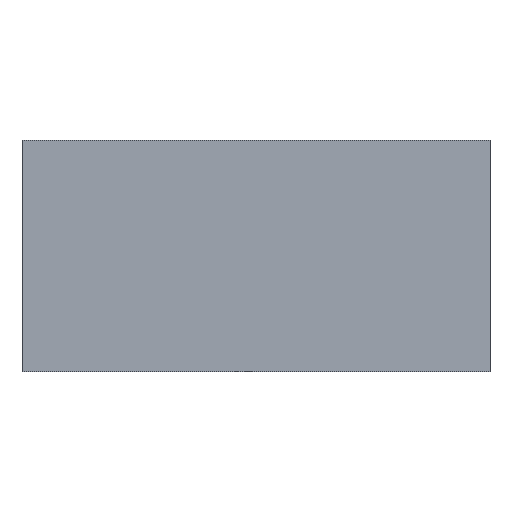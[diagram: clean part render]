
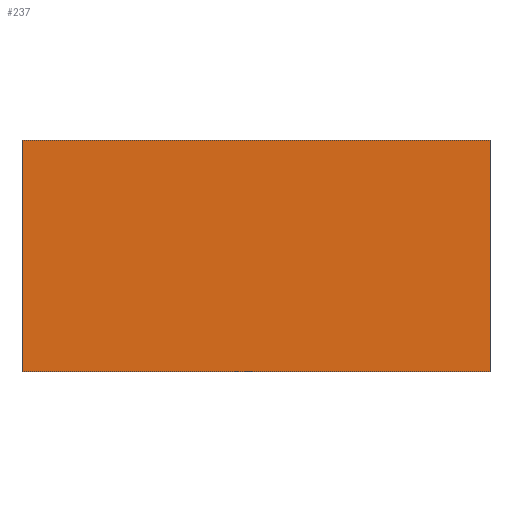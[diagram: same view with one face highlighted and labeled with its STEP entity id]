
A CAD part, front view. The second image highlights one B-rep face of the part: STEP entity #237.
In plain terms, the highlighted planar face has unit normal (0, -1, 0).
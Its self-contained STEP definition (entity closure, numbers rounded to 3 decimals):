
#21 = EDGE_CURVE('',#22,#24,#26,.T.);
#22 = VERTEX_POINT('',#23);
#23 = CARTESIAN_POINT('',(-51.9,-34.425,27.15));
#24 = VERTEX_POINT('',#25);
#25 = CARTESIAN_POINT('',(-51.9,-34.425,78.45));
#26 = SURFACE_CURVE('',#27,(#31,#43),.PCURVE_S1.);
#27 = LINE('',#28,#29);
#28 = CARTESIAN_POINT('',(-51.9,-34.425,27.15));
#29 = VECTOR('',#30,1.);
#30 = DIRECTION('',(0.,0.,1.));
#31 = PCURVE('',#32,#37);
#32 = PLANE('',#33);
#33 = AXIS2_PLACEMENT_3D('',#34,#35,#36);
#34 = CARTESIAN_POINT('',(-51.9,-34.425,27.15));
#35 = DIRECTION('',(1.,0.,0.));
#36 = DIRECTION('',(0.,0.,1.));
#37 = DEFINITIONAL_REPRESENTATION('',(#38),#42);
#38 = LINE('',#39,#40);
#39 = CARTESIAN_POINT('',(0.,0.));
#40 = VECTOR('',#41,1.);
#41 = DIRECTION('',(1.,0.));
#42 = ( GEOMETRIC_REPRESENTATION_CONTEXT(2) 
PARAMETRIC_REPRESENTATION_CONTEXT() REPRESENTATION_CONTEXT('2D SPACE',''
  ) );
#43 = PCURVE('',#44,#49);
#44 = PLANE('',#45);
#45 = AXIS2_PLACEMENT_3D('',#46,#47,#48);
#46 = CARTESIAN_POINT('',(-51.9,-34.425,27.15));
#47 = DIRECTION('',(0.,1.,0.));
#48 = DIRECTION('',(0.,0.,1.));
#49 = DEFINITIONAL_REPRESENTATION('',(#50),#54);
#50 = LINE('',#51,#52);
#51 = CARTESIAN_POINT('',(0.,0.));
#52 = VECTOR('',#53,1.);
#53 = DIRECTION('',(1.,0.));
#54 = ( GEOMETRIC_REPRESENTATION_CONTEXT(2) 
PARAMETRIC_REPRESENTATION_CONTEXT() REPRESENTATION_CONTEXT('2D SPACE',''
  ) );
#72 = PLANE('',#73);
#73 = AXIS2_PLACEMENT_3D('',#74,#75,#76);
#74 = CARTESIAN_POINT('',(-51.9,-34.425,27.15));
#75 = DIRECTION('',(0.,0.,1.));
#76 = DIRECTION('',(1.,0.,0.));
#126 = PLANE('',#127);
#127 = AXIS2_PLACEMENT_3D('',#128,#129,#130);
#128 = CARTESIAN_POINT('',(-51.9,-34.425,78.45));
#129 = DIRECTION('',(0.,0.,1.));
#130 = DIRECTION('',(1.,0.,0.));
#141 = EDGE_CURVE('',#142,#144,#146,.T.);
#142 = VERTEX_POINT('',#143);
#143 = CARTESIAN_POINT('',(51.9,-34.425,27.15));
#144 = VERTEX_POINT('',#145);
#145 = CARTESIAN_POINT('',(51.9,-34.425,78.45));
#146 = SURFACE_CURVE('',#147,(#151,#163),.PCURVE_S1.);
#147 = LINE('',#148,#149);
#148 = CARTESIAN_POINT('',(51.9,-34.425,27.15));
#149 = VECTOR('',#150,1.);
#150 = DIRECTION('',(0.,0.,1.));
#151 = PCURVE('',#152,#157);
#152 = PLANE('',#153);
#153 = AXIS2_PLACEMENT_3D('',#154,#155,#156);
#154 = CARTESIAN_POINT('',(51.9,-34.425,27.15));
#155 = DIRECTION('',(1.,0.,0.));
#156 = DIRECTION('',(0.,0.,1.));
#157 = DEFINITIONAL_REPRESENTATION('',(#158),#162);
#158 = LINE('',#159,#160);
#159 = CARTESIAN_POINT('',(0.,0.));
#160 = VECTOR('',#161,1.);
#161 = DIRECTION('',(1.,0.));
#162 = ( GEOMETRIC_REPRESENTATION_CONTEXT(2) 
PARAMETRIC_REPRESENTATION_CONTEXT() REPRESENTATION_CONTEXT('2D SPACE',''
  ) );
#163 = PCURVE('',#44,#164);
#164 = DEFINITIONAL_REPRESENTATION('',(#165),#169);
#165 = LINE('',#166,#167);
#166 = CARTESIAN_POINT('',(0.,103.8));
#167 = VECTOR('',#168,1.);
#168 = DIRECTION('',(1.,0.));
#169 = ( GEOMETRIC_REPRESENTATION_CONTEXT(2) 
PARAMETRIC_REPRESENTATION_CONTEXT() REPRESENTATION_CONTEXT('2D SPACE',''
  ) );
#237 = ADVANCED_FACE('',(#238),#44,.F.);
#238 = FACE_BOUND('',#239,.F.);
#239 = EDGE_LOOP('',(#240,#261,#262,#283));
#240 = ORIENTED_EDGE('',*,*,#241,.F.);
#241 = EDGE_CURVE('',#22,#142,#242,.T.);
#242 = SURFACE_CURVE('',#243,(#247,#254),.PCURVE_S1.);
#243 = LINE('',#244,#245);
#244 = CARTESIAN_POINT('',(-51.9,-34.425,27.15));
#245 = VECTOR('',#246,1.);
#246 = DIRECTION('',(1.,0.,0.));
#247 = PCURVE('',#44,#248);
#248 = DEFINITIONAL_REPRESENTATION('',(#249),#253);
#249 = LINE('',#250,#251);
#250 = CARTESIAN_POINT('',(0.,0.));
#251 = VECTOR('',#252,1.);
#252 = DIRECTION('',(0.,1.));
#253 = ( GEOMETRIC_REPRESENTATION_CONTEXT(2) 
PARAMETRIC_REPRESENTATION_CONTEXT() REPRESENTATION_CONTEXT('2D SPACE',''
  ) );
#254 = PCURVE('',#72,#255);
#255 = DEFINITIONAL_REPRESENTATION('',(#256),#260);
#256 = LINE('',#257,#258);
#257 = CARTESIAN_POINT('',(0.,0.));
#258 = VECTOR('',#259,1.);
#259 = DIRECTION('',(1.,0.));
#260 = ( GEOMETRIC_REPRESENTATION_CONTEXT(2) 
PARAMETRIC_REPRESENTATION_CONTEXT() REPRESENTATION_CONTEXT('2D SPACE',''
  ) );
#261 = ORIENTED_EDGE('',*,*,#21,.T.);
#262 = ORIENTED_EDGE('',*,*,#263,.T.);
#263 = EDGE_CURVE('',#24,#144,#264,.T.);
#264 = SURFACE_CURVE('',#265,(#269,#276),.PCURVE_S1.);
#265 = LINE('',#266,#267);
#266 = CARTESIAN_POINT('',(-51.9,-34.425,78.45));
#267 = VECTOR('',#268,1.);
#268 = DIRECTION('',(1.,0.,0.));
#269 = PCURVE('',#44,#270);
#270 = DEFINITIONAL_REPRESENTATION('',(#271),#275);
#271 = LINE('',#272,#273);
#272 = CARTESIAN_POINT('',(51.3,0.));
#273 = VECTOR('',#274,1.);
#274 = DIRECTION('',(0.,1.));
#275 = ( GEOMETRIC_REPRESENTATION_CONTEXT(2) 
PARAMETRIC_REPRESENTATION_CONTEXT() REPRESENTATION_CONTEXT('2D SPACE',''
  ) );
#276 = PCURVE('',#126,#277);
#277 = DEFINITIONAL_REPRESENTATION('',(#278),#282);
#278 = LINE('',#279,#280);
#279 = CARTESIAN_POINT('',(0.,0.));
#280 = VECTOR('',#281,1.);
#281 = DIRECTION('',(1.,0.));
#282 = ( GEOMETRIC_REPRESENTATION_CONTEXT(2) 
PARAMETRIC_REPRESENTATION_CONTEXT() REPRESENTATION_CONTEXT('2D SPACE',''
  ) );
#283 = ORIENTED_EDGE('',*,*,#141,.F.);
